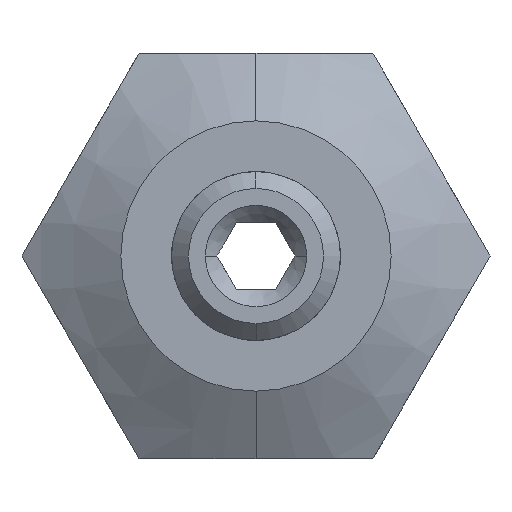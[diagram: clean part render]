
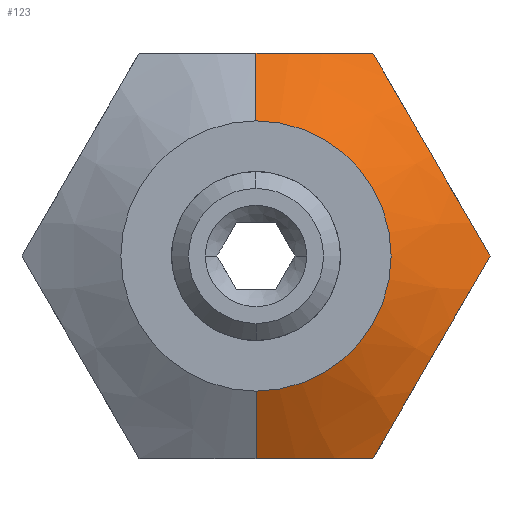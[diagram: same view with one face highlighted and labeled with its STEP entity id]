
A CAD part, front view. The second image highlights one B-rep face of the part: STEP entity #123.
In plain terms, the highlighted conical face has half-angle 60 degrees and reference radius 4 mm.
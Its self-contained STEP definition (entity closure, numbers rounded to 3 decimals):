
#123 = ADVANCED_FACE ( 'NONE', ( #2159 ), #1624, .T. ) ;
#126 = CARTESIAN_POINT ( 'NONE',  ( 4.466, 8.352, 4.264 ) ) ;
#172 = CARTESIAN_POINT ( 'NONE',  ( 6.928, 8.791, 0. ) ) ;
#227 = CARTESIAN_POINT ( 'NONE',  ( 0., 7.1, 4. ) ) ;
#273 = B_SPLINE_CURVE_WITH_KNOTS ( 'NONE', 3,
 ( #591, #1468, #2351, #1478, #910, #1102 ),
 .UNSPECIFIED., .F., .F.,
 ( 4, 2, 4 ),
 ( 0.017, 0.019, 0.02 ),
 .UNSPECIFIED. ) ;
#303 = CARTESIAN_POINT ( 'NONE',  ( 6.36, 8.492, -0.985 ) ) ;
#363 = CARTESIAN_POINT ( 'NONE',  ( 3.464, 8.791, 6. ) ) ;
#396 = CARTESIAN_POINT ( 'NONE',  ( 2.336, 8.494, -6. ) ) ;
#401 = CARTESIAN_POINT ( 'NONE',  ( 0., 7.1, 0. ) ) ;
#418 = CARTESIAN_POINT ( 'NONE',  ( 3.464, 8.791, -6. ) ) ;
#439 = ORIENTED_EDGE ( 'NONE', *, *, #1788, .F. ) ;
#481 = DIRECTION ( 'NONE',  ( 0., 0.5, -0.866 ) ) ;
#492 = EDGE_CURVE ( 'NONE', #2496, #781, #273, .T. ) ;
#494 = CARTESIAN_POINT ( 'NONE',  ( 6.928, 8.791, 0. ) ) ;
#495 = DIRECTION ( 'NONE',  ( 0., -1., 0. ) ) ;
#591 = CARTESIAN_POINT ( 'NONE',  ( 3.464, 8.791, 6. ) ) ;
#628 = CARTESIAN_POINT ( 'NONE',  ( 0., 8.255, -6. ) ) ;
#645 = VERTEX_POINT ( 'NONE', #710 ) ;
#665 = AXIS2_PLACEMENT_3D ( 'NONE', #401, #1306, #2389 ) ;
#710 = CARTESIAN_POINT ( 'NONE',  ( 0., 7.1, 4. ) ) ;
#777 = CARTESIAN_POINT ( 'NONE',  ( 6.928, 8.791, 0. ) ) ;
#781 = VERTEX_POINT ( 'NONE', #2730 ) ;
#782 = CARTESIAN_POINT ( 'NONE',  ( 4.612, 8.316, 4.012 ) ) ;
#798 = EDGE_CURVE ( 'NONE', #2788, #1183, #1574, .T. ) ;
#817 = VECTOR ( 'NONE', #1101, 1000. ) ;
#823 = CARTESIAN_POINT ( 'NONE',  ( 4.604, 8.255, -4.026 ) ) ;
#839 = CARTESIAN_POINT ( 'NONE',  ( 5.788, 8.255, 1.974 ) ) ;
#841 = CARTESIAN_POINT ( 'NONE',  ( 0.585, 8.255, -6. ) ) ;
#893 = EDGE_CURVE ( 'NONE', #645, #781, #2575, .T. ) ;
#910 = CARTESIAN_POINT ( 'NONE',  ( 0.585, 8.255, 6. ) ) ;
#943 = CARTESIAN_POINT ( 'NONE',  ( 5.34, 8.255, -2.751 ) ) ;
#984 = LINE ( 'NONE', #1985, #2725 ) ;
#1029 = CARTESIAN_POINT ( 'NONE',  ( 3.464, 8.791, -6. ) ) ;
#1067 = ORIENTED_EDGE ( 'NONE', *, *, #2603, .T. ) ;
#1073 = B_SPLINE_CURVE_WITH_KNOTS ( 'NONE', 3,
 ( #172, #1268, #839, #2733, #2149, #782, #126, #1642, #2334, #363 ),
 .UNSPECIFIED., .F., .F.,
 ( 4, 2, 2, 2, 4 ),
 ( 0., 0.003, 0.004, 0.005, 0.007 ),
 .UNSPECIFIED. ) ;
#1078 = ORIENTED_EDGE ( 'NONE', *, *, #893, .F. ) ;
#1101 = DIRECTION ( 'NONE',  ( 0., 0.5, 0.866 ) ) ;
#1102 = CARTESIAN_POINT ( 'NONE',  ( 0., 8.255, 6. ) ) ;
#1111 = CARTESIAN_POINT ( 'NONE',  ( 2.904, 8.629, -6. ) ) ;
#1183 = VERTEX_POINT ( 'NONE', #494 ) ;
#1201 = CARTESIAN_POINT ( 'NONE',  ( 6.645, 8.627, -0.49 ) ) ;
#1268 = CARTESIAN_POINT ( 'NONE',  ( 6.363, 8.464, 0.98 ) ) ;
#1306 = DIRECTION ( 'NONE',  ( 0., 1., 0. ) ) ;
#1335 = B_SPLINE_CURVE_WITH_KNOTS ( 'NONE', 3,
 ( #628, #841, #1892, #396, #1111, #418 ),
 .UNSPECIFIED., .F., .F.,
 ( 4, 2, 4 ),
 ( 0.01, 0.011, 0.013 ),
 .UNSPECIFIED. ) ;
#1370 = CARTESIAN_POINT ( 'NONE',  ( 0., 8.255, -6. ) ) ;
#1427 = CARTESIAN_POINT ( 'NONE',  ( 0., 7.1, -4. ) ) ;
#1442 = AXIS2_PLACEMENT_3D ( 'NONE', #2487, #495, #2448 ) ;
#1468 = CARTESIAN_POINT ( 'NONE',  ( 2.904, 8.629, 6. ) ) ;
#1478 = CARTESIAN_POINT ( 'NONE',  ( 1.179, 8.306, 6. ) ) ;
#1501 = ORIENTED_EDGE ( 'NONE', *, *, #798, .T. ) ;
#1522 = EDGE_LOOP ( 'NONE', ( #439, #2044, #2570, #1501, #1067, #1823, #1078 ) ) ;
#1534 = CARTESIAN_POINT ( 'NONE',  ( 3.464, 8.791, 6. ) ) ;
#1574 = B_SPLINE_CURVE_WITH_KNOTS ( 'NONE', 3,
 ( #1029, #2116, #823, #943, #2249, #2677, #2715, #303, #1201, #777 ),
 .UNSPECIFIED., .F., .F.,
 ( 4, 2, 2, 2, 4 ),
 ( 0., 0.003, 0.004, 0.005, 0.007 ),
 .UNSPECIFIED. ) ;
#1624 = CONICAL_SURFACE ( 'NONE', #665, 4., 1.047 ) ;
#1642 = CARTESIAN_POINT ( 'NONE',  ( 4.033, 8.492, 5.015 ) ) ;
#1788 = EDGE_CURVE ( 'NONE', #2100, #645, #2310, .T. ) ;
#1823 = ORIENTED_EDGE ( 'NONE', *, *, #492, .T. ) ;
#1834 = VERTEX_POINT ( 'NONE', #1370 ) ;
#1892 = CARTESIAN_POINT ( 'NONE',  ( 1.179, 8.306, -6. ) ) ;
#1977 = EDGE_CURVE ( 'NONE', #1834, #2788, #1335, .T. ) ;
#1982 = CARTESIAN_POINT ( 'NONE',  ( 3.464, 8.791, -6. ) ) ;
#1985 = CARTESIAN_POINT ( 'NONE',  ( 0., 7.1, -4. ) ) ;
#2044 = ORIENTED_EDGE ( 'NONE', *, *, #2499, .T. ) ;
#2100 = VERTEX_POINT ( 'NONE', #1427 ) ;
#2116 = CARTESIAN_POINT ( 'NONE',  ( 4.03, 8.464, -5.02 ) ) ;
#2149 = CARTESIAN_POINT ( 'NONE',  ( 4.904, 8.267, 3.506 ) ) ;
#2159 = FACE_OUTER_BOUND ( 'NONE', #1522, .T. ) ;
#2249 = CARTESIAN_POINT ( 'NONE',  ( 5.488, 8.267, -2.494 ) ) ;
#2310 = CIRCLE ( 'NONE', #1442, 4. ) ;
#2334 = CARTESIAN_POINT ( 'NONE',  ( 3.747, 8.627, 5.51 ) ) ;
#2351 = CARTESIAN_POINT ( 'NONE',  ( 2.336, 8.494, 6. ) ) ;
#2389 = DIRECTION ( 'NONE',  ( 0., 0., 1. ) ) ;
#2448 = DIRECTION ( 'NONE',  ( 0., 0., -1. ) ) ;
#2487 = CARTESIAN_POINT ( 'NONE',  ( 0., 7.1, 0. ) ) ;
#2496 = VERTEX_POINT ( 'NONE', #1534 ) ;
#2499 = EDGE_CURVE ( 'NONE', #2100, #1834, #984, .T. ) ;
#2570 = ORIENTED_EDGE ( 'NONE', *, *, #1977, .T. ) ;
#2575 = LINE ( 'NONE', #227, #817 ) ;
#2603 = EDGE_CURVE ( 'NONE', #1183, #2496, #1073, .T. ) ;
#2677 = CARTESIAN_POINT ( 'NONE',  ( 5.781, 8.316, -1.988 ) ) ;
#2715 = CARTESIAN_POINT ( 'NONE',  ( 5.926, 8.352, -1.736 ) ) ;
#2725 = VECTOR ( 'NONE', #481, 1000. ) ;
#2730 = CARTESIAN_POINT ( 'NONE',  ( 0., 8.255, 6. ) ) ;
#2733 = CARTESIAN_POINT ( 'NONE',  ( 5.052, 8.255, 3.249 ) ) ;
#2788 = VERTEX_POINT ( 'NONE', #1982 ) ;
